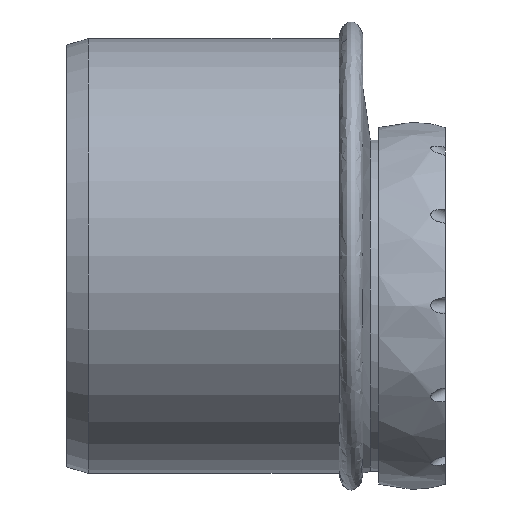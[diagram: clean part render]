
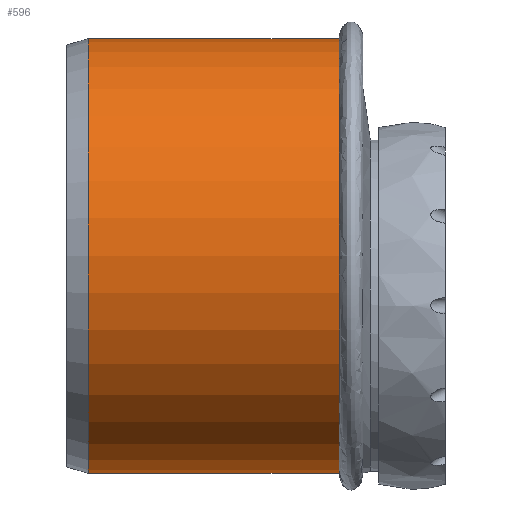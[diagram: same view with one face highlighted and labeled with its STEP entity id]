
A CAD part, top view. The second image highlights one B-rep face of the part: STEP entity #596.
In plain terms, the highlighted cylindrical face has radius 55.1 mm (diameter 110.2 mm), a full revolution.
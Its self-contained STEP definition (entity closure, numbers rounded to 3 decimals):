
#17=FACE_BOUND('',#145,.T.);
#75=CYLINDRICAL_SURFACE('',#677,55.1);
#107=FACE_OUTER_BOUND('',#144,.T.);
#144=EDGE_LOOP('',(#501));
#145=EDGE_LOOP('',(#502));
#189=CIRCLE('',#670,55.1);
#192=CIRCLE('',#676,55.1);
#274=VERTEX_POINT('',#1528);
#277=VERTEX_POINT('',#1538);
#354=EDGE_CURVE('',#274,#274,#189,.T.);
#357=EDGE_CURVE('',#277,#277,#192,.T.);
#501=ORIENTED_EDGE('',*,*,#354,.F.);
#502=ORIENTED_EDGE('',*,*,#357,.T.);
#596=ADVANCED_FACE('',(#107,#17),#75,.T.);
#670=AXIS2_PLACEMENT_3D('',#1530,#832,#833);
#676=AXIS2_PLACEMENT_3D('',#1539,#844,#845);
#677=AXIS2_PLACEMENT_3D('',#1540,#846,#847);
#832=DIRECTION('center_axis',(1.,0.,0.));
#833=DIRECTION('ref_axis',(0.,0.,-1.));
#844=DIRECTION('center_axis',(1.,0.,0.));
#845=DIRECTION('ref_axis',(0.,0.,-1.));
#846=DIRECTION('center_axis',(1.,0.,0.));
#847=DIRECTION('ref_axis',(0.,1.,0.));
#1528=CARTESIAN_POINT('',(69.1,67.75,0.));
#1530=CARTESIAN_POINT('Origin',(69.1,12.65,0.));
#1538=CARTESIAN_POINT('',(5.5,67.75,0.));
#1539=CARTESIAN_POINT('Origin',(5.5,12.65,0.));
#1540=CARTESIAN_POINT('Origin',(37.3,12.65,0.));
